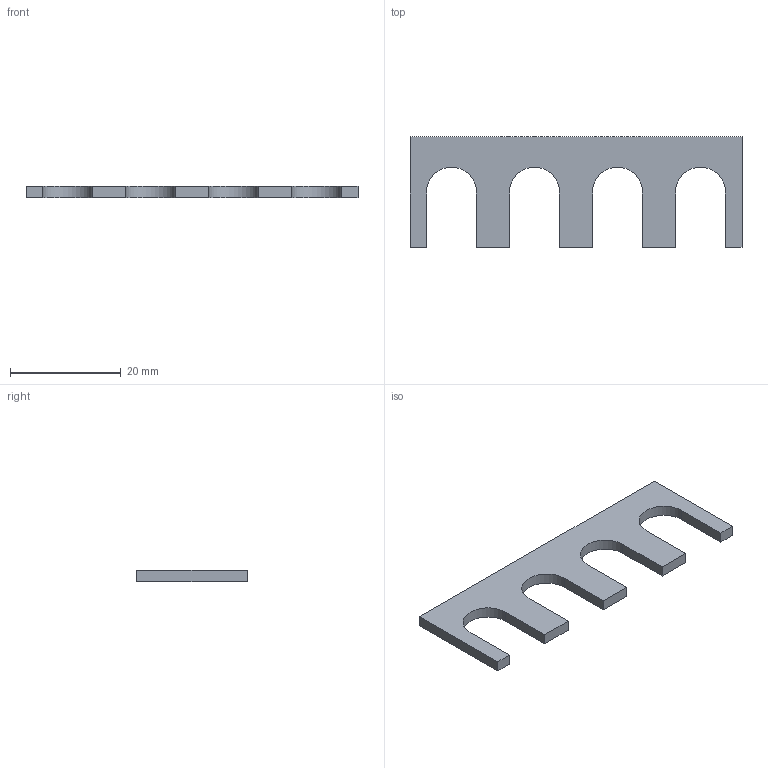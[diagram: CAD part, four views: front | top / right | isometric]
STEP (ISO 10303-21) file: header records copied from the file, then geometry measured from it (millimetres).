
FILE_DESCRIPTION(('CATIA V5 STEP Exchange'),'2;1');
FILE_NAME('\\mechanus\Mechanus\KONSTRUKCE-MONTAZ\PRODUKTY MECHANUS\MS006-SERIZOVACI PRVKY\ADMINISTRATIVA\podklady\simsy modely\MECHANUS šimsy\Mechanus--simsa--20x60 tl.2 (2060-200).stp','2024-03-13T12:28:47+00:00',('none'),('none'),'CATIA Version 5 Release 19 GA (IN-10)','CATIA V5 STEP AP203','none');
FILE_SCHEMA(('CONFIG_CONTROL_DESIGN'));
Length unit declared in the file: millimetre
Products named in the file (1): Mechanus--simsa--20x60 tl.2 (2060-200)
Bounding box: 60 x 20 x 2 mm (x, y, z)
Volume: 1425.5 mm3; surface area: 1946.6 mm2
Topology: 1 solids, 1 shells, 22 faces, 60 edges, 40 vertices
Faces by surface type: plane 18, cylinder 4
Entity records: 706 total; most frequent: ORIENTED_EDGE 120, CARTESIAN_POINT 119, DIRECTION 96, EDGE_CURVE 60, VECTOR 52, LINE 52, VERTEX_POINT 40, AXIS2_PLACEMENT_3D 27
